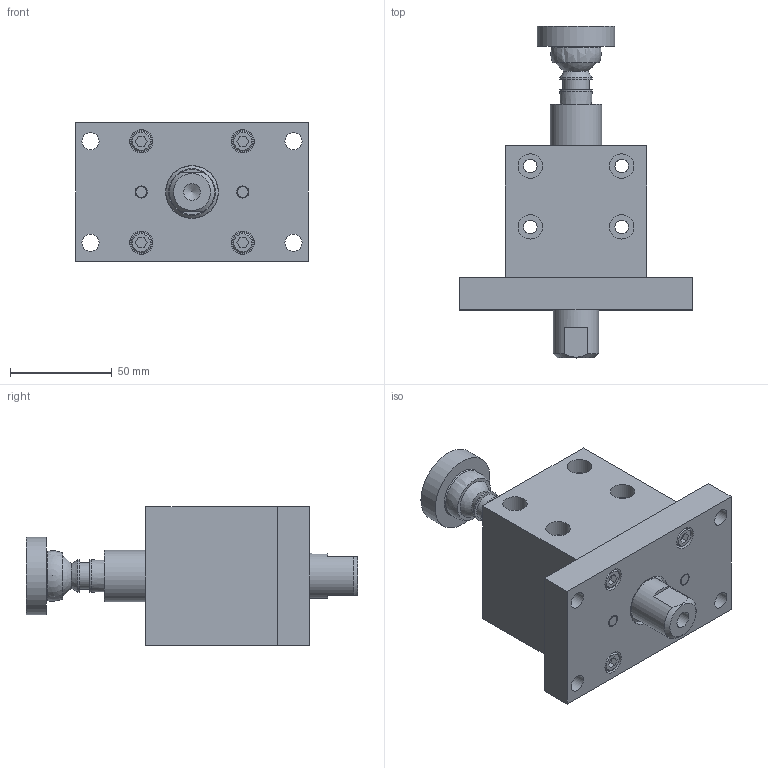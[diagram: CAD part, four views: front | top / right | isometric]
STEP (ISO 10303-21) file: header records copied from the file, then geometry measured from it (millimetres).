
FILE_DESCRIPTION(/* description */ ('PASS THRU GROUND UNIT'),/* implementation_level */ '2;1');
FILE_NAME(/* name */ 'C:\Vault Workspace\CAD\Welker\Cylinders\GBS\GBSB.stp',/* time_stamp */ '2021-06-24T14:09:03-04:00',/* author */ ('KPL'),/* organization */ (''),/* preprocessor_version */ 'ST-DEVELOPER v18.1',/* originating_system */ 'Autodesk Inventor 2020',/* authorisation */ '');
FILE_SCHEMA (('AUTOMOTIVE_DESIGN { 1 0 10303 214 3 1 1 }'));
Products named in the file (11): GBSL01; AN-09U2145; AN-07U2145; 6mmX25 ; M3X0.5-10 SHCS; M6X1-20 SHCS; NL6; SN-1512; GBSE01; GBSE02; GBSE03
Assembly tree (17 placements, depth 2):
  GBSL01
    AN-09U2145
    AN-07U2145
    6mmX25   x2
    M3X0.5-10 SHCS
    M6X1-20 SHCS  x4
    NL6  x4
    SN-1512
    GBSE01
    GBSE02
    GBSE03
Bounding box: 114.3 x 163.5 x 68 mm (x, y, z)
Volume: 417969.5 mm3; surface area: 91388.6 mm2
Topology: 17 solids, 17 shells, 213 faces, 499 edges, 353 vertices
Faces by surface type: plane 109, cylinder 70, cone 30, torus 2, sphere 2
Full cylindrical faces by diameter (mm): 3 x1, 4.917 x4, 5.5 x1, 6 x10, 6.5 x8, 6.647 x4, 8 x2, 8.376 x1, 8.5 x4, 10 x4, 10.8 x4, 11.5 x4, 12 x4, 13 x1, 15.875 x3, 22.225 x1, 22.352 x1, 25.4 x2, 25.984 x1, 26.162 x1, 28.575 x1, 29.134 x1, 29.159 x1, 29.185 x1, 32.258 x1, 32.309 x1, 36.5 x2, 38.1 x1
Entity records: 5376 total; most frequent: DIRECTION 966, CARTESIAN_POINT 842, ORIENTED_EDGE 752, AXIS2_PLACEMENT_3D 410, EDGE_CURVE 376, VERTEX_POINT 280, EDGE_LOOP 230, CIRCLE 228
